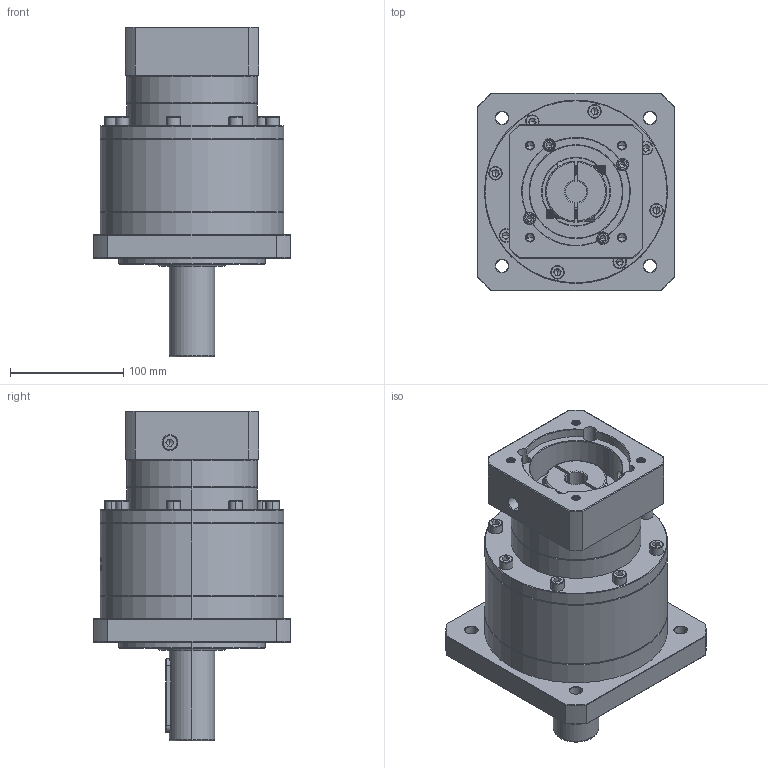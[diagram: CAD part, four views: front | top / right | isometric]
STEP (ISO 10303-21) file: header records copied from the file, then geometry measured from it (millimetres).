
FILE_DESCRIPTION (( 'STEP AP214' ), '1' );
FILE_NAME ('ZF160-D40-L2-19-95-115-M8.step', '2023-03-22T03:55:59', ( '' ), ( '' ), 'SwSTEP 2.0', 'SolidWorks 2016', '' );
FILE_SCHEMA (( 'AUTOMOTIVE_DESIGN' ));
Length unit declared in the file: millimetre
Products named in the file (1): ZF160-D40-L2-19-95-115-M8
Bounding box: 175 x 175 x 291.7 mm (x, y, z)
Volume: 3593416.2 mm3; surface area: 265699.7 mm2
Topology: 6 solids, 6 shells, 1880 faces, 4787 edges, 3029 vertices
Faces by surface type: plane 746, cylinder 491, cone 373, bspline 232, torus 38
Entity records: 100333 total; most frequent: CARTESIAN_POINT 36588, ORIENTED_EDGE 9466, DIRECTION 8289, EDGE_CURVE 4733, VERTEX_POINT 3029, AXIS2_PLACEMENT_3D 2889, VECTOR 2511, LINE 2511
